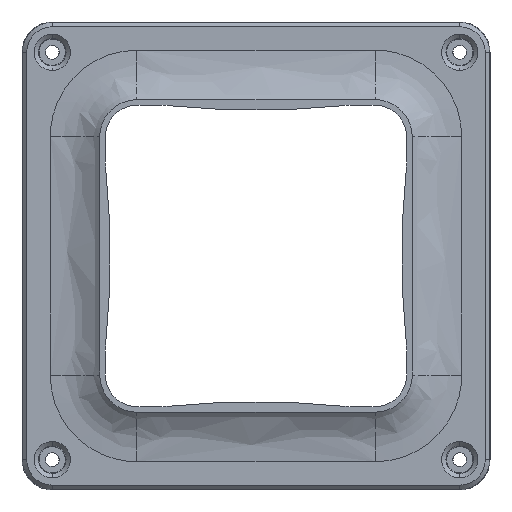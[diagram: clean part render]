
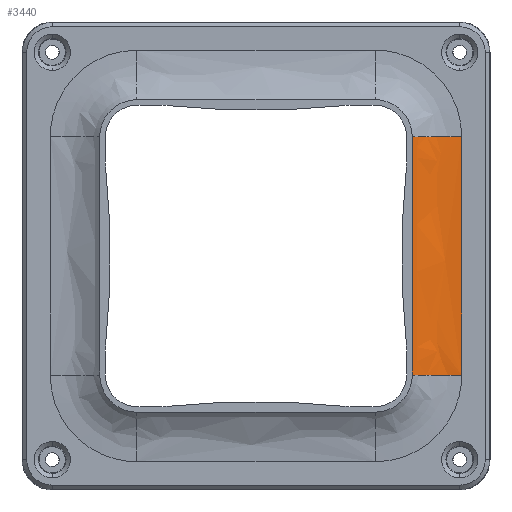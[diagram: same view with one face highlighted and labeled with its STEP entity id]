
A CAD part, top view. The second image highlights one B-rep face of the part: STEP entity #3440.
In plain terms, the highlighted free-form (B-spline) face has degree [3, 3] with [14, 5] control points.
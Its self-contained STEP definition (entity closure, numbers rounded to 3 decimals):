
#280=DIRECTION('',(0.,1.,0.));
#281=VECTOR('',#280,86.5);
#282=CARTESIAN_POINT('',(74.75,-43.25,6.5));
#283=LINE('',#282,#281);
#287=CARTESIAN_POINT('',(74.75,43.25,6.5));
#363=CARTESIAN_POINT('',(74.75,-43.25,6.5));
#492=CARTESIAN_POINT('',(74.75,-43.25,6.5));
#493=CARTESIAN_POINT('',(68.353,-43.25,6.386));
#494=CARTESIAN_POINT('',(62.202,-43.25,8.279));
#495=CARTESIAN_POINT('',(57.315,-43.25,12.467));
#496=CARTESIAN_POINT('',(56.75,-43.25,13.));
#555=CARTESIAN_POINT('',(74.75,43.25,6.5));
#556=CARTESIAN_POINT('',(68.353,43.25,6.386));
#557=CARTESIAN_POINT('',(62.202,43.25,8.279));
#558=CARTESIAN_POINT('',(57.315,43.25,12.467));
#559=CARTESIAN_POINT('',(56.75,43.25,13.));
#564=CARTESIAN_POINT('',(56.75,43.25,13.));
#579=DIRECTION('',(0.,1.,0.));
#580=VECTOR('',#579,86.5);
#581=CARTESIAN_POINT('',(56.75,-43.25,13.));
#582=LINE('',#581,#580);
#596=CARTESIAN_POINT('',(56.75,-43.25,13.));
#2761=VERTEX_POINT('',#287);
#2771=VERTEX_POINT('',#363);
#2772=VERTEX_POINT('',#564);
#2782=VERTEX_POINT('',#596);
#3360=CARTESIAN_POINT('',(74.947,-44.118,6.504));
#3361=CARTESIAN_POINT('',(68.462,-44.027,6.353));
#3362=CARTESIAN_POINT('',(62.183,-43.924,8.26));
#3363=CARTESIAN_POINT('',(57.217,-43.821,12.552));
#3364=CARTESIAN_POINT('',(56.607,-43.808,13.135));
#3365=CARTESIAN_POINT('',(74.946,-41.449,6.504));
#3366=CARTESIAN_POINT('',(68.467,-41.642,6.353));
#3367=CARTESIAN_POINT('',(62.186,-41.862,8.26));
#3368=CARTESIAN_POINT('',(57.216,-42.083,12.552));
#3369=CARTESIAN_POINT('',(56.608,-42.11,13.135));
#3370=CARTESIAN_POINT('',(74.947,-36.681,6.504));
#3371=CARTESIAN_POINT('',(68.462,-37.285,6.353));
#3372=CARTESIAN_POINT('',(62.182,-37.982,8.26));
#3373=CARTESIAN_POINT('',(57.217,-38.685,12.552));
#3374=CARTESIAN_POINT('',(56.607,-38.775,13.135));
#3375=CARTESIAN_POINT('',(74.946,-30.269,6.504));
#3376=CARTESIAN_POINT('',(68.464,-31.21,6.353));
#3377=CARTESIAN_POINT('',(62.184,-32.306,8.26));
#3378=CARTESIAN_POINT('',(57.217,-33.425,12.552));
#3379=CARTESIAN_POINT('',(56.607,-33.567,13.135));
#3380=CARTESIAN_POINT('',(74.946,-24.56,6.504));
#3381=CARTESIAN_POINT('',(68.463,-25.628,6.353));
#3382=CARTESIAN_POINT('',(62.183,-26.88,8.26));
#3383=CARTESIAN_POINT('',(57.217,-28.166,12.552));
#3384=CARTESIAN_POINT('',(56.607,-28.329,13.135));
#3385=CARTESIAN_POINT('',(74.946,-15.658,6.504));
#3386=CARTESIAN_POINT('',(68.463,-16.674,6.353));
#3387=CARTESIAN_POINT('',(62.184,-17.875,8.26));
#3388=CARTESIAN_POINT('',(57.217,-19.117,12.552));
#3389=CARTESIAN_POINT('',(56.607,-19.276,13.135));
#3390=CARTESIAN_POINT('',(74.946,-4.535,6.504));
#3391=CARTESIAN_POINT('',(68.463,-4.908,6.353));
#3392=CARTESIAN_POINT('',(62.183,-5.352,8.26));
#3393=CARTESIAN_POINT('',(57.217,-5.815,12.552));
#3394=CARTESIAN_POINT('',(56.607,-5.874,13.135));
#3395=CARTESIAN_POINT('',(74.946,6.859,6.504));
#3396=CARTESIAN_POINT('',(68.463,7.395,6.353));
#3397=CARTESIAN_POINT('',(62.183,8.031,8.26));
#3398=CARTESIAN_POINT('',(57.217,8.693,12.552));
#3399=CARTESIAN_POINT('',(56.607,8.778,13.135));
#3400=CARTESIAN_POINT('',(74.946,16.608,6.504));
#3401=CARTESIAN_POINT('',(68.463,17.604,6.353));
#3402=CARTESIAN_POINT('',(62.184,18.779,8.26));
#3403=CARTESIAN_POINT('',(57.217,19.994,12.552));
#3404=CARTESIAN_POINT('',(56.607,20.149,13.135));
#3405=CARTESIAN_POINT('',(74.946,24.484,6.504));
#3406=CARTESIAN_POINT('',(68.463,25.585,6.353));
#3407=CARTESIAN_POINT('',(62.183,26.876,8.26));
#3408=CARTESIAN_POINT('',(57.217,28.201,12.552));
#3409=CARTESIAN_POINT('',(56.607,28.37,13.135));
#3410=CARTESIAN_POINT('',(74.946,31.734,6.504));
#3411=CARTESIAN_POINT('',(68.464,32.627,6.353));
#3412=CARTESIAN_POINT('',(62.184,33.665,8.26));
#3413=CARTESIAN_POINT('',(57.217,34.722,12.552));
#3414=CARTESIAN_POINT('',(56.607,34.856,13.135));
#3415=CARTESIAN_POINT('',(74.947,38.355,6.504));
#3416=CARTESIAN_POINT('',(68.462,38.82,6.353));
#3417=CARTESIAN_POINT('',(62.183,39.356,8.26));
#3418=CARTESIAN_POINT('',(57.217,39.894,12.552));
#3419=CARTESIAN_POINT('',(56.607,39.962,13.135));
#3420=CARTESIAN_POINT('',(74.946,42.05,6.504));
#3421=CARTESIAN_POINT('',(68.466,42.18,6.353));
#3422=CARTESIAN_POINT('',(62.185,42.327,8.26));
#3423=CARTESIAN_POINT('',(57.216,42.475,12.552));
#3424=CARTESIAN_POINT('',(56.608,42.493,13.135));
#3425=CARTESIAN_POINT('',(74.947,44.128,6.504));
#3426=CARTESIAN_POINT('',(68.462,44.037,6.353));
#3427=CARTESIAN_POINT('',(62.183,43.932,8.26));
#3428=CARTESIAN_POINT('',(57.217,43.827,12.552));
#3429=CARTESIAN_POINT('',(56.607,43.814,13.135));
#3430=B_SPLINE_SURFACE_WITH_KNOTS('',3,3,((#3360,#3361,#3362,#3363,#3364),
(#3365,#3366,#3367,#3368,#3369),(#3370,#3371,#3372,#3373,#3374),(#3375,#3376,
#3377,#3378,#3379),(#3380,#3381,#3382,#3383,#3384),(#3385,#3386,#3387,#3388,
#3389),(#3390,#3391,#3392,#3393,#3394),(#3395,#3396,#3397,#3398,#3399),(#3400,
#3401,#3402,#3403,#3404),(#3405,#3406,#3407,#3408,#3409),(#3410,#3411,#3412,
#3413,#3414),(#3415,#3416,#3417,#3418,#3419),(#3420,#3421,#3422,#3423,#3424),(
#3425,#3426,#3427,#3428,#3429)),.UNSPECIFIED.,.F.,.F.,.F.,(4,1,1,1,1,1,1,1,1,1,
1,4),(4,1,4),(-0.008,0.063,0.125,0.188,0.25,0.438,
0.625,0.719,0.813,0.906,0.953,1.008),(
-0.174,17.002,19.501),.UNSPECIFIED.);
#3431=ORIENTED_EDGE('',*,*,#3341,.F.);
#3433=ORIENTED_EDGE('',*,*,#3432,.T.);
#3435=ORIENTED_EDGE('',*,*,#3434,.T.);
#3437=ORIENTED_EDGE('',*,*,#3436,.F.);
#3438=EDGE_LOOP('',(#3431,#3433,#3435,#3437));
#3439=FACE_OUTER_BOUND('',#3438,.F.);
#497=B_SPLINE_CURVE_WITH_KNOTS('',3,(#492,#493,#494,#495,#496),.UNSPECIFIED.,
.F.,.F.,(4,1,4),(0.,0.881,1.),.UNSPECIFIED.);
#560=B_SPLINE_CURVE_WITH_KNOTS('',3,(#555,#556,#557,#558,#559),.UNSPECIFIED.,
.F.,.F.,(4,1,4),(0.,0.881,1.),.UNSPECIFIED.);
#3341=EDGE_CURVE('',#2771,#2761,#283,.T.);
#3432=EDGE_CURVE('',#2771,#2782,#497,.T.);
#3434=EDGE_CURVE('',#2782,#2772,#582,.T.);
#3436=EDGE_CURVE('',#2761,#2772,#560,.T.);
#3440=ADVANCED_FACE('',(#3439),#3430,.T.);
